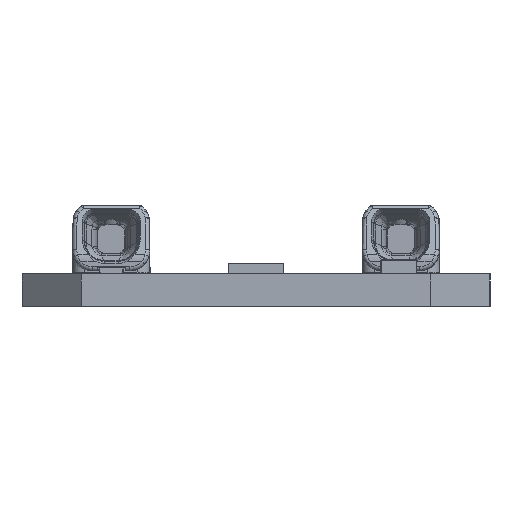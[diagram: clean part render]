
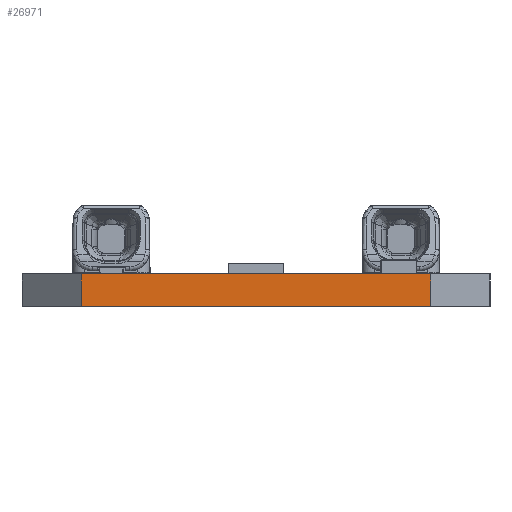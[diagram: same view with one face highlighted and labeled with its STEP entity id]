
A CAD part, left-side view. The second image highlights one B-rep face of the part: STEP entity #26971.
In plain terms, the highlighted planar face has unit normal (-1, 0, 0).
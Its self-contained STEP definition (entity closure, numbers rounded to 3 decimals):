
#745=DIRECTION('',(0.,0.,1.));
#746=VECTOR('',#745,1.65);
#747=CARTESIAN_POINT('',(-69.5,-8.8,0.));
#748=LINE('',#747,#746);
#752=DIRECTION('',(0.,1.,0.));
#753=VECTOR('',#752,17.6);
#754=CARTESIAN_POINT('',(-69.5,-8.8,1.65));
#755=LINE('',#754,#753);
#843=DIRECTION('',(0.,1.,0.));
#844=VECTOR('',#843,17.6);
#845=CARTESIAN_POINT('',(-69.5,-8.8,0.));
#846=LINE('',#845,#844);
#1066=DIRECTION('',(0.,0.,1.));
#1067=VECTOR('',#1066,1.65);
#1068=CARTESIAN_POINT('',(-69.5,8.8,0.));
#1069=LINE('',#1068,#1067);
#23630=CARTESIAN_POINT('',(-69.5,-8.8,0.));
#23631=CARTESIAN_POINT('',(-69.5,8.8,0.));
#23632=VERTEX_POINT('',#23630);
#23633=VERTEX_POINT('',#23631);
#23642=CARTESIAN_POINT('',(-69.5,-8.8,1.65));
#23643=CARTESIAN_POINT('',(-69.5,8.8,1.65));
#23644=VERTEX_POINT('',#23642);
#23645=VERTEX_POINT('',#23643);
#26957=CARTESIAN_POINT('',(-69.5,8.8,1.65));
#26958=DIRECTION('',(-1.,0.,0.));
#26959=DIRECTION('',(0.,0.,1.));
#26960=AXIS2_PLACEMENT_3D('',#26957,#26958,#26959);
#26961=PLANE('',#26960);
#26963=ORIENTED_EDGE('',*,*,#26962,.F.);
#26965=ORIENTED_EDGE('',*,*,#26964,.T.);
#26967=ORIENTED_EDGE('',*,*,#26966,.T.);
#26968=ORIENTED_EDGE('',*,*,#26589,.F.);
#26969=EDGE_LOOP('',(#26963,#26965,#26967,#26968));
#26970=FACE_OUTER_BOUND('',#26969,.F.);
#26589=EDGE_CURVE('',#23644,#23645,#755,.T.);
#26962=EDGE_CURVE('',#23632,#23644,#748,.T.);
#26964=EDGE_CURVE('',#23632,#23633,#846,.T.);
#26966=EDGE_CURVE('',#23633,#23645,#1069,.T.);
#26971=ADVANCED_FACE('',(#26970),#26961,.T.);
